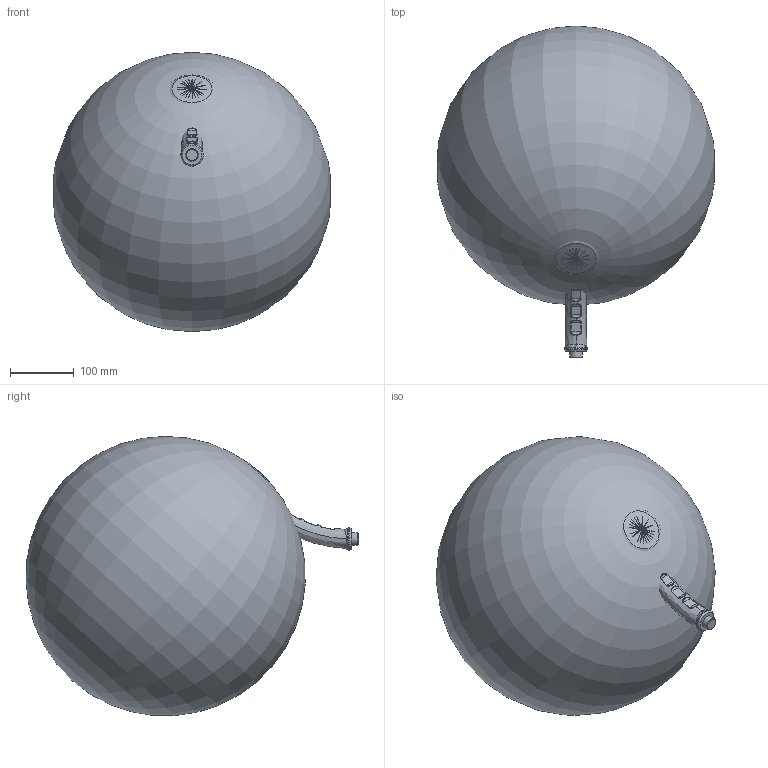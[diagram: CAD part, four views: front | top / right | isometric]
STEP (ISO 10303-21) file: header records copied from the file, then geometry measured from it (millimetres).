
FILE_DESCRIPTION (( 'STEP AP203' ), '1' );
FILE_NAME ('242010.STEP', '2017-03-09T05:46:24', ( '' ), ( '' ), 'SwSTEP 2.0', 'SolidWorks 2016', '' );
FILE_SCHEMA (( 'CONFIG_CONTROL_DESIGN' ));
Length unit declared in the file: millimetre
Products named in the file (1): 242010
Bounding box: 435.52 x 521.88 x 438.9 mm (x, y, z)
Volume: 44614312.7 mm3; surface area: 650116.8 mm2
Topology: 3 solids, 3 shells, 72 faces, 165 edges, 99 vertices
Faces by surface type: bspline 41, cylinder 17, plane 8, torus 5, cone 1
Full cylindrical faces by diameter (mm): 20 x1, 31 x1, 75 x1
Entity records: 6829 total; most frequent: CARTESIAN_POINT 5554, ORIENTED_EDGE 304, EDGE_CURVE 152, DIRECTION 144, B_SPLINE_CURVE_WITH_KNOTS 96, VERTEX_POINT 95, EDGE_LOOP 81, FACE_OUTER_BOUND 78
